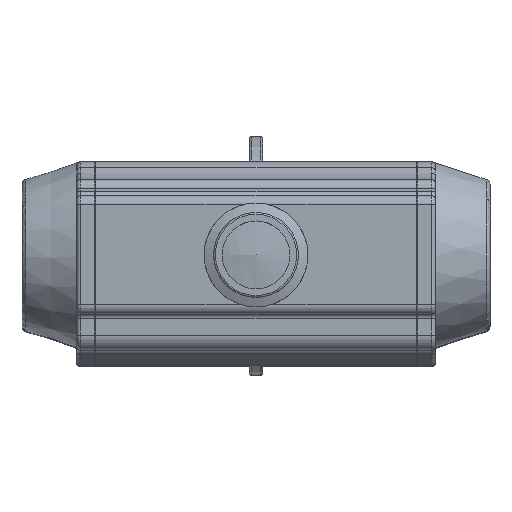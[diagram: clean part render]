
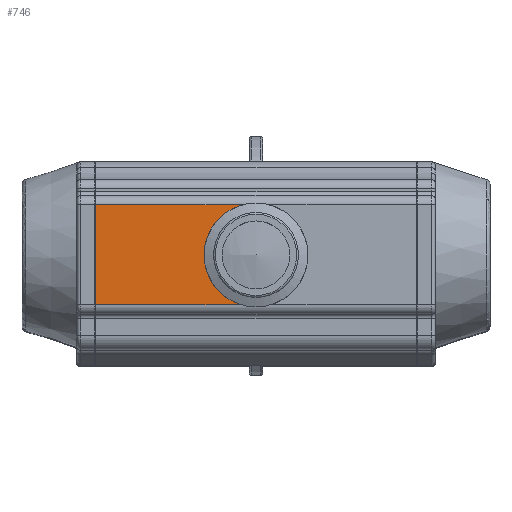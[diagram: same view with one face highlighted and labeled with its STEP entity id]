
A CAD part, top view. The second image highlights one B-rep face of the part: STEP entity #746.
In plain terms, the highlighted planar face has unit normal (0, 0, 1).
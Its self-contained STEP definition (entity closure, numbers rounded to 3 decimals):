
#746 = ADVANCED_FACE( '', ( #1920 ), #1921, .T. );
#1920 = FACE_OUTER_BOUND( '', #3705, .T. );
#1921 = PLANE( '', #3706 );
#3705 = EDGE_LOOP( '', ( #6849, #6850, #6851, #6852 ) );
#3706 = AXIS2_PLACEMENT_3D( '', #6853, #6854, #6855 );
#6849 = ORIENTED_EDGE( '', *, *, #11795, .T. );
#6850 = ORIENTED_EDGE( '', *, *, #11796, .T. );
#6851 = ORIENTED_EDGE( '', *, *, #11797, .F. );
#6852 = ORIENTED_EDGE( '', *, *, #11798, .F. );
#6853 = CARTESIAN_POINT( '', ( 85., -26.5, 58. ) );
#6854 = DIRECTION( '', ( 0., 0., 1. ) );
#6855 = DIRECTION( '', ( 1., 0., 0. ) );
#11795 = EDGE_CURVE( '', #13924, #13925, #13926, .T. );
#11796 = EDGE_CURVE( '', #13925, #13927, #13928, .T. );
#11797 = EDGE_CURVE( '', #13929, #13927, #13930, .T. );
#11798 = EDGE_CURVE( '', #13924, #13929, #13931, .T. );
#13924 = VERTEX_POINT( '', #18201 );
#13925 = VERTEX_POINT( '', #18202 );
#13926 = CIRCLE( '', #18203, 27.5 );
#13927 = VERTEX_POINT( '', #18204 );
#13928 = LINE( '', #18205, #18206 );
#13929 = VERTEX_POINT( '', #18207 );
#13930 = LINE( '', #18208, #18209 );
#13931 = LINE( '', #18210, #18211 );
#18201 = CARTESIAN_POINT( '', ( -7.348, -26.5, 58. ) );
#18202 = CARTESIAN_POINT( '', ( -7.348, 26.5, 58. ) );
#18203 = AXIS2_PLACEMENT_3D( '', #23537, #23538, #23539 );
#18204 = CARTESIAN_POINT( '', ( -85., 26.5, 58. ) );
#18205 = CARTESIAN_POINT( '', ( 85., 26.5, 58. ) );
#18206 = VECTOR( '', #23540, 1000. );
#18207 = CARTESIAN_POINT( '', ( -85., -26.5, 58. ) );
#18208 = CARTESIAN_POINT( '', ( -85., -26.5, 58. ) );
#18209 = VECTOR( '', #23541, 1000. );
#18210 = CARTESIAN_POINT( '', ( 85., -26.5, 58. ) );
#18211 = VECTOR( '', #23542, 1000. );
#23537 = CARTESIAN_POINT( '', ( 0., 0., 58. ) );
#23538 = DIRECTION( '', ( 0., 0., -1. ) );
#23539 = DIRECTION( '', ( -1., 0., 0. ) );
#23540 = DIRECTION( '', ( -1., 0., 0. ) );
#23541 = DIRECTION( '', ( 0., 1., 0. ) );
#23542 = DIRECTION( '', ( -1., 0., 0. ) );
